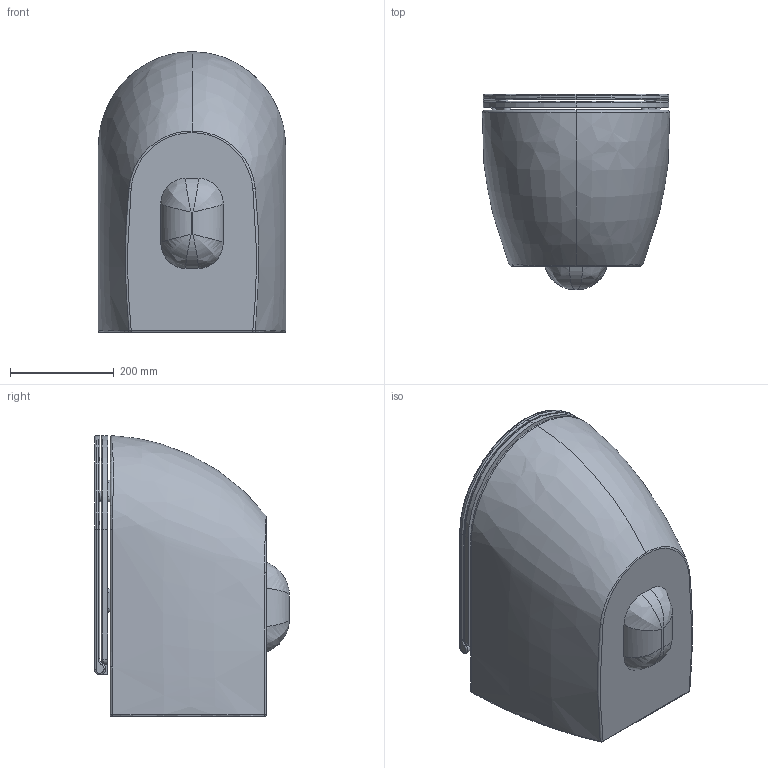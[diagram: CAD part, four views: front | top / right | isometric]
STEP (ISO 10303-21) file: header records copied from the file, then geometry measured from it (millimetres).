
FILE_DESCRIPTION (( 'STEP AP203' ), '1' );
FILE_NAME ('CMVCSPE54000+CPWR.STEP', '2025-04-23T10:44:24', ( '' ), ( '' ), 'SwSTEP 2.0', 'SolidWorks 2024', '' );
FILE_SCHEMA (( 'CONFIG_CONTROL_DESIGN' ));
Length unit declared in the file: millimetre
Products named in the file (3): COM 1800_F; WC COMODA_SOSP 54; CMVCSPE54000+CPWR
Assembly tree (2 placements, depth 2):
  CMVCSPE54000+CPWR
    WC COMODA_SOSP 54
    COM 1800_F
Bounding box: 360.31 x 375 x 540 mm (x, y, z)
Volume: 35495854.5 mm3; surface area: 1419191.1 mm2
Topology: 2 solids, 2 shells, 171 faces, 422 edges, 257 vertices
Faces by surface type: cylinder 54, plane 47, bspline 45, torus 19, cone 6
Full cylindrical faces by diameter (mm): 16 x2, 20 x2, 25 x2, 55 x1, 100 x1
Entity records: 13213 total; most frequent: CARTESIAN_POINT 9240, ORIENTED_EDGE 808, DIRECTION 706, EDGE_CURVE 404, AXIS2_PLACEMENT_3D 283, VERTEX_POINT 255, EDGE_LOOP 197, FACE_OUTER_BOUND 179
